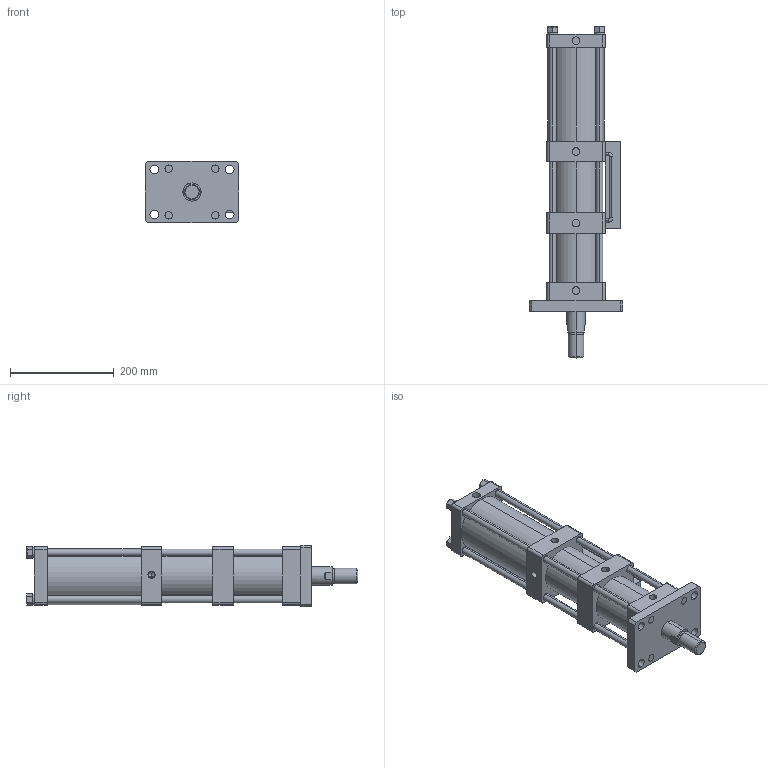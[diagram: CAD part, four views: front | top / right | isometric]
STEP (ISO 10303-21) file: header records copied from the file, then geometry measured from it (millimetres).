
FILE_DESCRIPTION (( 'STEP AP203' ), '1' );
FILE_NAME ('MPTF-80-50-10-5T.STEP', '2016-03-29T10:03:36', ( 'WIN' ), ( '' ), 'SwSTEP 2.0', 'SolidWorks 2014', '' );
FILE_SCHEMA (( 'CONFIG_CONTROL_DESIGN' ));
Length unit declared in the file: millimetre
Products named in the file (1): MPTF-80-50-10-5T
Bounding box: 180 x 640 x 118 mm (x, y, z)
Volume: 3101026 mm3; surface area: 560105.2 mm2
Topology: 5 solids, 5 shells, 266 faces, 632 edges, 413 vertices
Faces by surface type: cylinder 136, plane 120, cone 6, torus 4
Entity records: 7973 total; most frequent: DIRECTION 1448, CARTESIAN_POINT 1382, ORIENTED_EDGE 1260, EDGE_CURVE 630, AXIS2_PLACEMENT_3D 555, VERTEX_POINT 413, EDGE_LOOP 349, VECTOR 338
